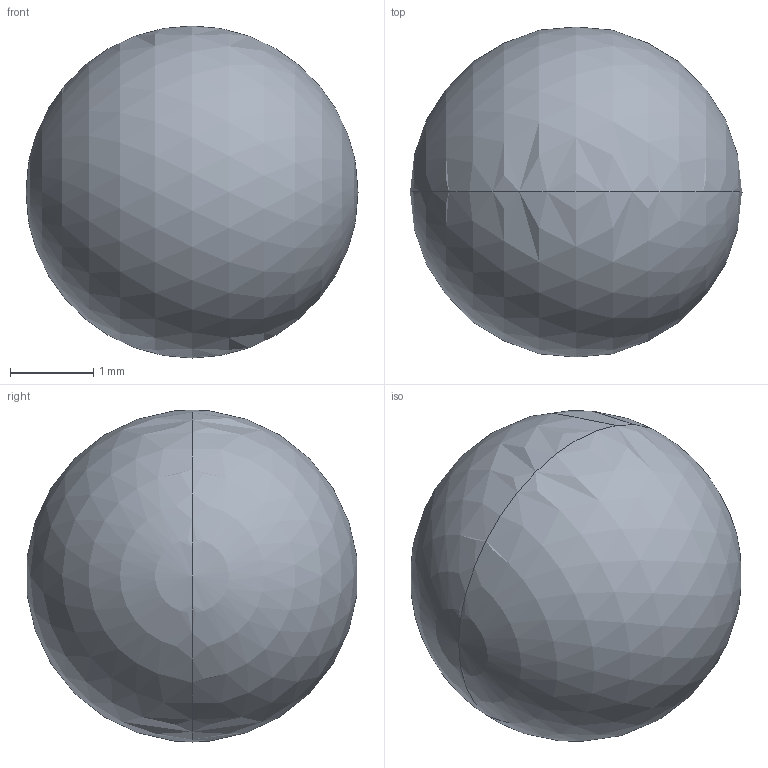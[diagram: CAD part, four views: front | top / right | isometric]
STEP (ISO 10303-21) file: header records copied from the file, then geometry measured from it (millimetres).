
FILE_DESCRIPTION((''),'2;1');
FILE_NAME('6MM_STEEL_BALL','2024-05-16T11:48:39',('qinghui.yi'),(''),'CREO PARAMETRIC BY PTC INC, 2019164','CREO PARAMETRIC BY PTC INC, 2019164','');
FILE_SCHEMA(('CONFIG_CONTROL_DESIGN','SHAPE_APPEARANCE_LAYERS_GROUPS'));
Length unit declared in the file: millimetre
Products named in the file (1): 6MM_STEEL_BALL
Bounding box: 4 x 3.97 x 4 mm (x, y, z)
Volume: 33.5 mm3; surface area: 50.3 mm2
Topology: 1 solids, 1 shells, 2 faces, 9 edges, 8 vertices
Faces by surface type: sphere 2
Entity records: 443 total; most frequent: COLOUR_RGB 312, DIRECTION 13, CARTESIAN_POINT 10, DRAUGHTING_PRE_DEFINED_COLOUR 8, AXIS2_PLACEMENT_3D 5, ORIENTED_EDGE 4, CURVE_STYLE 4, PRESENTATION_STYLE_ASSIGNMENT 4
